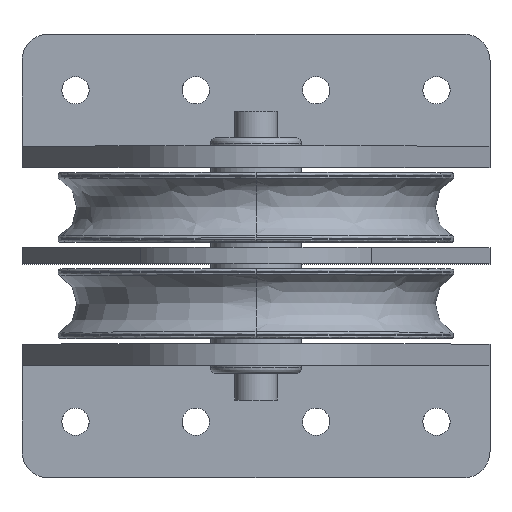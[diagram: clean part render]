
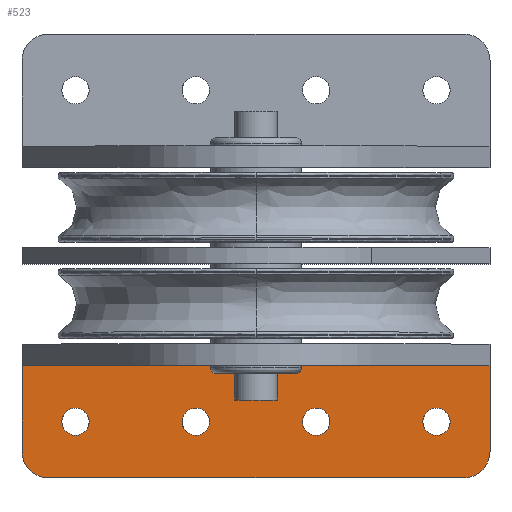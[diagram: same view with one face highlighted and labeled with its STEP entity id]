
A CAD part, top view. The second image highlights one B-rep face of the part: STEP entity #523.
In plain terms, the highlighted free-form (B-spline) face has degree [1, 1] with [2, 2] control points.
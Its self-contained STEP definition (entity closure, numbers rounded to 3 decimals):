
#124=B_SPLINE_SURFACE_WITH_KNOTS($,1,1,((#9937,#9938),(#9939,#9940)),.UNSPECIFIED.,
.F.,.F.,.F.,(2,2),(2,2),(-42.,0.),(-10.,165.),.UNSPECIFIED.);
#284=FACE_BOUND($,#1414,.T.);
#285=FACE_BOUND($,#1415,.T.);
#286=FACE_BOUND($,#1416,.T.);
#287=FACE_BOUND($,#1417,.T.);
#523=ADVANCED_FACE($,(#939,#284,#285,#286,#287),#124,.T.);
#939=FACE_OUTER_BOUND($,#1413,.T.);
#1413=EDGE_LOOP($,(#2664,#2665,#2666,#2667,#2668,#2669));
#1414=EDGE_LOOP($,(#2670,#2671));
#1415=EDGE_LOOP($,(#2672,#2673));
#1416=EDGE_LOOP($,(#2674,#2675));
#1417=EDGE_LOOP($,(#2676,#2677));
#2664=ORIENTED_EDGE($,*,*,#4044,.F.);
#2665=ORIENTED_EDGE($,*,*,#4042,.F.);
#2666=ORIENTED_EDGE($,*,*,#4048,.F.);
#2667=ORIENTED_EDGE($,*,*,#4046,.F.);
#2668=ORIENTED_EDGE($,*,*,#4058,.F.);
#2669=ORIENTED_EDGE($,*,*,#4050,.F.);
#2670=ORIENTED_EDGE($,*,*,#4076,.F.);
#2671=ORIENTED_EDGE($,*,*,#4061,.F.);
#2672=ORIENTED_EDGE($,*,*,#4079,.F.);
#2673=ORIENTED_EDGE($,*,*,#4064,.F.);
#2674=ORIENTED_EDGE($,*,*,#4082,.F.);
#2675=ORIENTED_EDGE($,*,*,#4067,.F.);
#2676=ORIENTED_EDGE($,*,*,#4085,.F.);
#2677=ORIENTED_EDGE($,*,*,#4070,.F.);
#4042=EDGE_CURVE($,#4778,#4779,#14856,.T.);
#4044=EDGE_CURVE($,#4779,#4785,#5596,.T.);
#4046=EDGE_CURVE($,#4780,#4781,#14857,.T.);
#4048=EDGE_CURVE($,#4781,#4778,#5599,.T.);
#4050=EDGE_CURVE($,#4785,#4784,#5601,.T.);
#4058=EDGE_CURVE($,#4784,#4780,#5609,.T.);
#4061=EDGE_CURVE($,#4788,#4801,#14859,.T.);
#4064=EDGE_CURVE($,#4791,#4803,#14861,.T.);
#4067=EDGE_CURVE($,#4794,#4805,#14863,.T.);
#4070=EDGE_CURVE($,#4797,#4807,#14865,.T.);
#4076=EDGE_CURVE($,#4801,#4788,#14869,.T.);
#4079=EDGE_CURVE($,#4803,#4791,#14871,.T.);
#4082=EDGE_CURVE($,#4805,#4794,#14873,.T.);
#4085=EDGE_CURVE($,#4807,#4797,#14875,.T.);
#4778=VERTEX_POINT($,#10097);
#4779=VERTEX_POINT($,#10098);
#4780=VERTEX_POINT($,#10099);
#4781=VERTEX_POINT($,#10100);
#4784=VERTEX_POINT($,#10103);
#4785=VERTEX_POINT($,#10104);
#4788=VERTEX_POINT($,#10107);
#4791=VERTEX_POINT($,#10110);
#4794=VERTEX_POINT($,#10113);
#4797=VERTEX_POINT($,#10116);
#4801=VERTEX_POINT($,#10120);
#4803=VERTEX_POINT($,#10122);
#4805=VERTEX_POINT($,#10124);
#4807=VERTEX_POINT($,#10126);
#5596=B_SPLINE_CURVE_WITH_KNOTS($,1,(#9640,#9641),.UNSPECIFIED.,.F.,.F.,
(2,2),(410.,442.),.UNSPECIFIED.);
#5599=B_SPLINE_CURVE_WITH_KNOTS($,1,(#9649,#9650),.UNSPECIFIED.,.F.,.F.,
(2,2),(235.,390.),.UNSPECIFIED.);
#5601=B_SPLINE_CURVE_WITH_KNOTS($,3,(#9653,#9654,#9655,#9656),.UNSPECIFIED.,
.F.,.F.,(4,4),(-175.,0.),.UNSPECIFIED.);
#5609=B_SPLINE_CURVE_WITH_KNOTS($,1,(#9671,#9672),.UNSPECIFIED.,.F.,.F.,
(2,2),(633.,665.),.UNSPECIFIED.);
#9635=CARTESIAN_POINT($,(-142.453,-112.12,-76.));
#9636=CARTESIAN_POINT($,(-152.453,-112.12,-76.));
#9637=CARTESIAN_POINT($,(-152.453,-102.12,-76.));
#9640=CARTESIAN_POINT($,(-152.453,-102.12,-76.));
#9641=CARTESIAN_POINT($,(-152.453,-70.12,-76.));
#9644=CARTESIAN_POINT($,(22.547,-102.12,-76.));
#9645=CARTESIAN_POINT($,(22.547,-112.12,-76.));
#9646=CARTESIAN_POINT($,(12.547,-112.12,-76.));
#9649=CARTESIAN_POINT($,(12.547,-112.12,-76.));
#9650=CARTESIAN_POINT($,(-142.453,-112.12,-76.));
#9653=CARTESIAN_POINT($,(-152.453,-70.12,-76.));
#9654=CARTESIAN_POINT($,(-94.12,-70.12,-76.));
#9655=CARTESIAN_POINT($,(-35.787,-70.12,-76.));
#9656=CARTESIAN_POINT($,(22.547,-70.12,-76.));
#9671=CARTESIAN_POINT($,(22.547,-70.12,-76.));
#9672=CARTESIAN_POINT($,(22.547,-102.12,-76.));
#9680=CARTESIAN_POINT($,(7.647,-91.12,-76.));
#9681=CARTESIAN_POINT($,(7.647,-86.02,-76.));
#9682=CARTESIAN_POINT($,(2.547,-86.02,-76.));
#9683=CARTESIAN_POINT($,(-2.553,-86.02,-76.));
#9684=CARTESIAN_POINT($,(-2.553,-91.12,-76.));
#9692=CARTESIAN_POINT($,(-37.353,-91.12,-76.));
#9693=CARTESIAN_POINT($,(-37.353,-86.02,-76.));
#9694=CARTESIAN_POINT($,(-42.453,-86.02,-76.));
#9695=CARTESIAN_POINT($,(-47.553,-86.02,-76.));
#9696=CARTESIAN_POINT($,(-47.553,-91.12,-76.));
#9704=CARTESIAN_POINT($,(-82.353,-91.12,-76.));
#9705=CARTESIAN_POINT($,(-82.353,-86.02,-76.));
#9706=CARTESIAN_POINT($,(-87.453,-86.02,-76.));
#9707=CARTESIAN_POINT($,(-92.553,-86.02,-76.));
#9708=CARTESIAN_POINT($,(-92.553,-91.12,-76.));
#9716=CARTESIAN_POINT($,(-127.353,-91.12,-76.));
#9717=CARTESIAN_POINT($,(-127.353,-86.02,-76.));
#9718=CARTESIAN_POINT($,(-132.453,-86.02,-76.));
#9719=CARTESIAN_POINT($,(-137.553,-86.02,-76.));
#9720=CARTESIAN_POINT($,(-137.553,-91.12,-76.));
#9740=CARTESIAN_POINT($,(-2.553,-91.12,-76.));
#9741=CARTESIAN_POINT($,(-2.553,-96.22,-76.));
#9742=CARTESIAN_POINT($,(2.547,-96.22,-76.));
#9743=CARTESIAN_POINT($,(7.647,-96.22,-76.));
#9744=CARTESIAN_POINT($,(7.647,-91.12,-76.));
#9752=CARTESIAN_POINT($,(-47.553,-91.12,-76.));
#9753=CARTESIAN_POINT($,(-47.553,-96.22,-76.));
#9754=CARTESIAN_POINT($,(-42.453,-96.22,-76.));
#9755=CARTESIAN_POINT($,(-37.353,-96.22,-76.));
#9756=CARTESIAN_POINT($,(-37.353,-91.12,-76.));
#9764=CARTESIAN_POINT($,(-92.553,-91.12,-76.));
#9765=CARTESIAN_POINT($,(-92.553,-96.22,-76.));
#9766=CARTESIAN_POINT($,(-87.453,-96.22,-76.));
#9767=CARTESIAN_POINT($,(-82.353,-96.22,-76.));
#9768=CARTESIAN_POINT($,(-82.353,-91.12,-76.));
#9776=CARTESIAN_POINT($,(-137.553,-91.12,-76.));
#9777=CARTESIAN_POINT($,(-137.553,-96.22,-76.));
#9778=CARTESIAN_POINT($,(-132.453,-96.22,-76.));
#9779=CARTESIAN_POINT($,(-127.353,-96.22,-76.));
#9780=CARTESIAN_POINT($,(-127.353,-91.12,-76.));
#9937=CARTESIAN_POINT($,(-152.453,-70.12,-76.));
#9938=CARTESIAN_POINT($,(22.547,-70.12,-76.));
#9939=CARTESIAN_POINT($,(-152.453,-112.12,-76.));
#9940=CARTESIAN_POINT($,(22.547,-112.12,-76.));
#10097=CARTESIAN_POINT($,(-142.453,-112.12,-76.));
#10098=CARTESIAN_POINT($,(-152.453,-102.12,-76.));
#10099=CARTESIAN_POINT($,(22.547,-102.12,-76.));
#10100=CARTESIAN_POINT($,(12.547,-112.12,-76.));
#10103=CARTESIAN_POINT($,(22.547,-70.12,-76.));
#10104=CARTESIAN_POINT($,(-152.453,-70.12,-76.));
#10107=CARTESIAN_POINT($,(7.647,-91.12,-76.));
#10110=CARTESIAN_POINT($,(-37.353,-91.12,-76.));
#10113=CARTESIAN_POINT($,(-82.353,-91.12,-76.));
#10116=CARTESIAN_POINT($,(-127.353,-91.12,-76.));
#10120=CARTESIAN_POINT($,(-2.553,-91.12,-76.));
#10122=CARTESIAN_POINT($,(-47.553,-91.12,-76.));
#10124=CARTESIAN_POINT($,(-92.553,-91.12,-76.));
#10126=CARTESIAN_POINT($,(-137.553,-91.12,-76.));
#14856=(
BOUNDED_CURVE()
B_SPLINE_CURVE(2,(#9635,#9636,#9637),.UNSPECIFIED.,.F.,.F.)
B_SPLINE_CURVE_WITH_KNOTS((3,3),(0.,15.708),.UNSPECIFIED.)
CURVE()
GEOMETRIC_REPRESENTATION_ITEM()
RATIONAL_B_SPLINE_CURVE((1.,0.707,1.))
REPRESENTATION_ITEM($)
);
#14857=(
BOUNDED_CURVE()
B_SPLINE_CURVE(2,(#9644,#9645,#9646),.UNSPECIFIED.,.F.,.F.)
B_SPLINE_CURVE_WITH_KNOTS((3,3),(0.,15.708),.UNSPECIFIED.)
CURVE()
GEOMETRIC_REPRESENTATION_ITEM()
RATIONAL_B_SPLINE_CURVE((1.,0.707,1.))
REPRESENTATION_ITEM($)
);
#14859=(
BOUNDED_CURVE()
B_SPLINE_CURVE(2,(#9680,#9681,#9682,#9683,#9684),.UNSPECIFIED.,.F.,.F.)
B_SPLINE_CURVE_WITH_KNOTS((3,2,3),(-32.041,-24.03,-16.02),
.UNSPECIFIED.)
CURVE()
GEOMETRIC_REPRESENTATION_ITEM()
RATIONAL_B_SPLINE_CURVE((1.,0.707,1.,0.707,1.))
REPRESENTATION_ITEM($)
);
#14861=(
BOUNDED_CURVE()
B_SPLINE_CURVE(2,(#9692,#9693,#9694,#9695,#9696),.UNSPECIFIED.,.F.,.F.)
B_SPLINE_CURVE_WITH_KNOTS((3,2,3),(-32.041,-24.03,-16.02),
.UNSPECIFIED.)
CURVE()
GEOMETRIC_REPRESENTATION_ITEM()
RATIONAL_B_SPLINE_CURVE((1.,0.707,1.,0.707,1.))
REPRESENTATION_ITEM($)
);
#14863=(
BOUNDED_CURVE()
B_SPLINE_CURVE(2,(#9704,#9705,#9706,#9707,#9708),.UNSPECIFIED.,.F.,.F.)
B_SPLINE_CURVE_WITH_KNOTS((3,2,3),(-32.041,-24.03,-16.02),
.UNSPECIFIED.)
CURVE()
GEOMETRIC_REPRESENTATION_ITEM()
RATIONAL_B_SPLINE_CURVE((1.,0.707,1.,0.707,1.))
REPRESENTATION_ITEM($)
);
#14865=(
BOUNDED_CURVE()
B_SPLINE_CURVE(2,(#9716,#9717,#9718,#9719,#9720),.UNSPECIFIED.,.F.,.F.)
B_SPLINE_CURVE_WITH_KNOTS((3,2,3),(-32.041,-24.03,-16.02),
.UNSPECIFIED.)
CURVE()
GEOMETRIC_REPRESENTATION_ITEM()
RATIONAL_B_SPLINE_CURVE((1.,0.707,1.,0.707,1.))
REPRESENTATION_ITEM($)
);
#14869=(
BOUNDED_CURVE()
B_SPLINE_CURVE(2,(#9740,#9741,#9742,#9743,#9744),.UNSPECIFIED.,.F.,.F.)
B_SPLINE_CURVE_WITH_KNOTS((3,2,3),(-16.02,-8.01,0.),
.UNSPECIFIED.)
CURVE()
GEOMETRIC_REPRESENTATION_ITEM()
RATIONAL_B_SPLINE_CURVE((1.,0.707,1.,0.707,1.))
REPRESENTATION_ITEM($)
);
#14871=(
BOUNDED_CURVE()
B_SPLINE_CURVE(2,(#9752,#9753,#9754,#9755,#9756),.UNSPECIFIED.,.F.,.F.)
B_SPLINE_CURVE_WITH_KNOTS((3,2,3),(-16.02,-8.01,0.),
.UNSPECIFIED.)
CURVE()
GEOMETRIC_REPRESENTATION_ITEM()
RATIONAL_B_SPLINE_CURVE((1.,0.707,1.,0.707,1.))
REPRESENTATION_ITEM($)
);
#14873=(
BOUNDED_CURVE()
B_SPLINE_CURVE(2,(#9764,#9765,#9766,#9767,#9768),.UNSPECIFIED.,.F.,.F.)
B_SPLINE_CURVE_WITH_KNOTS((3,2,3),(-16.02,-8.01,0.),
.UNSPECIFIED.)
CURVE()
GEOMETRIC_REPRESENTATION_ITEM()
RATIONAL_B_SPLINE_CURVE((1.,0.707,1.,0.707,1.))
REPRESENTATION_ITEM($)
);
#14875=(
BOUNDED_CURVE()
B_SPLINE_CURVE(2,(#9776,#9777,#9778,#9779,#9780),.UNSPECIFIED.,.F.,.F.)
B_SPLINE_CURVE_WITH_KNOTS((3,2,3),(-16.02,-8.01,0.),
.UNSPECIFIED.)
CURVE()
GEOMETRIC_REPRESENTATION_ITEM()
RATIONAL_B_SPLINE_CURVE((1.,0.707,1.,0.707,1.))
REPRESENTATION_ITEM($)
);
